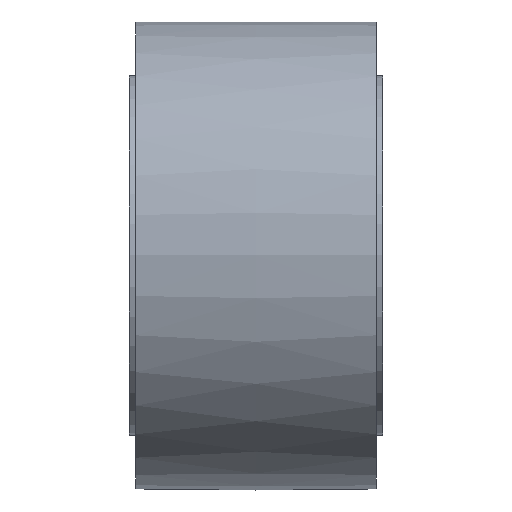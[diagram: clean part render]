
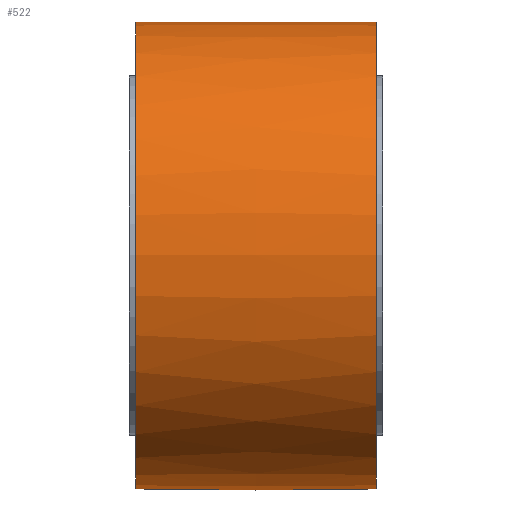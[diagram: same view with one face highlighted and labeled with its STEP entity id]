
A CAD part, front view. The second image highlights one B-rep face of the part: STEP entity #522.
In plain terms, the highlighted free-form (B-spline) face has degree [2, 2] with [3, 9] control points.
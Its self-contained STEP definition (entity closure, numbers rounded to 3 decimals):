
#183=(
BOUNDED_CURVE()
B_SPLINE_CURVE(2,(#1048,#1049,#1050),.UNSPECIFIED.,.F.,.F.)
B_SPLINE_CURVE_WITH_KNOTS((3,3),(-0.018,0.018),
 .UNSPECIFIED.)
CURVE()
GEOMETRIC_REPRESENTATION_ITEM()
RATIONAL_B_SPLINE_CURVE((1.,1.,1.))
REPRESENTATION_ITEM('')
);
#184=(
BOUNDED_SURFACE()
B_SPLINE_SURFACE(2,2,((#1021,#1022,#1023,#1024,#1025,#1026,#1027,#1028,
#1029),(#1030,#1031,#1032,#1033,#1034,#1035,#1036,#1037,#1038),(#1039,#1040,
#1041,#1042,#1043,#1044,#1045,#1046,#1047)),.UNSPECIFIED.,.F.,.T.,.F.)
B_SPLINE_SURFACE_WITH_KNOTS((3,3),(3,2,2,2,3),(-0.018,0.018),
(-3.142,-1.571,0.,1.571,3.142),
 .UNSPECIFIED.)
GEOMETRIC_REPRESENTATION_ITEM()
RATIONAL_B_SPLINE_SURFACE(((1.,0.707,1.,0.707,1.,
0.707,1.,0.707,1.),(1.,0.707,
1.,0.707,1.,0.707,
1.,0.707,1.),(1.,0.707,
1.,0.707,1.,0.707,1.,0.707,1.)))
REPRESENTATION_ITEM('')
SURFACE()
);
#283=FACE_OUTER_BOUND('',#338,.T.);
#338=EDGE_LOOP('',(#486,#487,#488,#489,#490,#491));
#362=CIRCLE('',#662,17.5);
#363=CIRCLE('',#663,17.5);
#364=CIRCLE('',#665,17.5);
#365=CIRCLE('',#666,17.5);
#392=VERTEX_POINT('',#1003);
#393=VERTEX_POINT('',#1004);
#394=VERTEX_POINT('',#1008);
#395=VERTEX_POINT('',#1009);
#422=EDGE_CURVE('',#392,#393,#362,.T.);
#423=EDGE_CURVE('',#393,#392,#363,.T.);
#424=EDGE_CURVE('',#394,#395,#364,.T.);
#425=EDGE_CURVE('',#395,#394,#365,.T.);
#429=EDGE_CURVE('',#395,#393,#183,.T.);
#486=ORIENTED_EDGE('',*,*,#424,.F.);
#487=ORIENTED_EDGE('',*,*,#425,.F.);
#488=ORIENTED_EDGE('',*,*,#429,.T.);
#489=ORIENTED_EDGE('',*,*,#423,.T.);
#490=ORIENTED_EDGE('',*,*,#422,.T.);
#491=ORIENTED_EDGE('',*,*,#429,.F.);
#522=ADVANCED_FACE('',(#283),#184,.F.);
#662=AXIS2_PLACEMENT_3D('',#1005,#820,#821);
#663=AXIS2_PLACEMENT_3D('',#1006,#822,#823);
#665=AXIS2_PLACEMENT_3D('',#1010,#826,#827);
#666=AXIS2_PLACEMENT_3D('',#1011,#828,#829);
#820=DIRECTION('center_axis',(1.,0.,0.));
#821=DIRECTION('ref_axis',(0.,0.,-1.));
#822=DIRECTION('center_axis',(1.,0.,0.));
#823=DIRECTION('ref_axis',(0.,0.,-1.));
#826=DIRECTION('center_axis',(1.,0.,0.));
#827=DIRECTION('ref_axis',(0.,0.,-1.));
#828=DIRECTION('center_axis',(1.,0.,0.));
#829=DIRECTION('ref_axis',(0.,0.,-1.));
#1003=CARTESIAN_POINT('',(-9.,17.5,0.));
#1004=CARTESIAN_POINT('',(-9.,0.,17.5));
#1005=CARTESIAN_POINT('Origin',(-9.,0.,0.));
#1006=CARTESIAN_POINT('Origin',(-9.,0.,0.));
#1008=CARTESIAN_POINT('',(9.,17.5,0.));
#1009=CARTESIAN_POINT('',(9.,0.,17.5));
#1010=CARTESIAN_POINT('Origin',(9.,0.,0.));
#1011=CARTESIAN_POINT('Origin',(9.,0.,0.));
#1021=CARTESIAN_POINT('Ctrl Pts',(-9.,0.,17.5));
#1022=CARTESIAN_POINT('Ctrl Pts',(-9.,-17.5,17.5));
#1023=CARTESIAN_POINT('Ctrl Pts',(-9.,-17.5,0.));
#1024=CARTESIAN_POINT('Ctrl Pts',(-9.,-17.5,-17.5));
#1025=CARTESIAN_POINT('Ctrl Pts',(-9.,0.,-17.5));
#1026=CARTESIAN_POINT('Ctrl Pts',(-9.,17.5,-17.5));
#1027=CARTESIAN_POINT('Ctrl Pts',(-9.,17.5,0.));
#1028=CARTESIAN_POINT('Ctrl Pts',(-9.,17.5,17.5));
#1029=CARTESIAN_POINT('Ctrl Pts',(-9.,0.,17.5));
#1030=CARTESIAN_POINT('Ctrl Pts',(0.,0.,
17.662));
#1031=CARTESIAN_POINT('Ctrl Pts',(0.,-17.662,
17.662));
#1032=CARTESIAN_POINT('Ctrl Pts',(0.,-17.662,
0.));
#1033=CARTESIAN_POINT('Ctrl Pts',(0.,-17.662,
-17.662));
#1034=CARTESIAN_POINT('Ctrl Pts',(0.,0.,
-17.662));
#1035=CARTESIAN_POINT('Ctrl Pts',(0.,17.662,
-17.662));
#1036=CARTESIAN_POINT('Ctrl Pts',(0.,17.662,
0.));
#1037=CARTESIAN_POINT('Ctrl Pts',(0.,17.662,
17.662));
#1038=CARTESIAN_POINT('Ctrl Pts',(0.,0.,
17.662));
#1039=CARTESIAN_POINT('Ctrl Pts',(9.,0.,
17.5));
#1040=CARTESIAN_POINT('Ctrl Pts',(9.,-17.5,17.5));
#1041=CARTESIAN_POINT('Ctrl Pts',(9.,-17.5,0.));
#1042=CARTESIAN_POINT('Ctrl Pts',(9.,-17.5,-17.5));
#1043=CARTESIAN_POINT('Ctrl Pts',(9.,0.,
-17.5));
#1044=CARTESIAN_POINT('Ctrl Pts',(9.,17.5,-17.5));
#1045=CARTESIAN_POINT('Ctrl Pts',(9.,17.5,0.));
#1046=CARTESIAN_POINT('Ctrl Pts',(9.,17.5,17.5));
#1047=CARTESIAN_POINT('Ctrl Pts',(9.,0.,
17.5));
#1048=CARTESIAN_POINT('Ctrl Pts',(9.,0.,
17.5));
#1049=CARTESIAN_POINT('Ctrl Pts',(0.,0.,
17.662));
#1050=CARTESIAN_POINT('Ctrl Pts',(-9.,0.,17.5));
